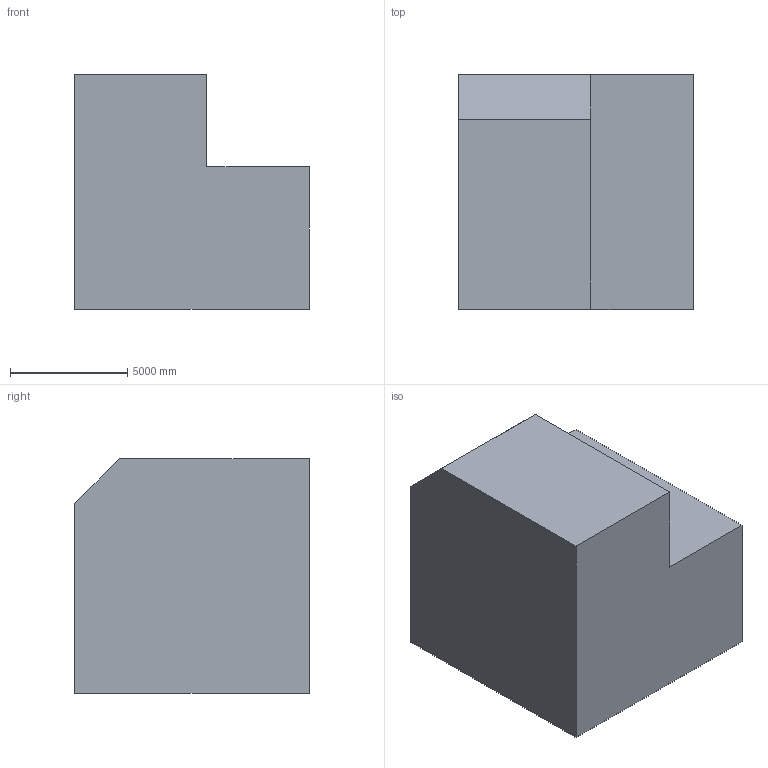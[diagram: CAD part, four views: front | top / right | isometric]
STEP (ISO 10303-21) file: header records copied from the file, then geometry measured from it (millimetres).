
FILE_DESCRIPTION (( 'STEP AP203' ), '1' );
FILE_NAME ('16.STEP', '2022-08-30T14:02:02', ( 'user' ), ( '' ), 'SwSTEP 2.0', 'SolidWorks 2021', '' );
FILE_SCHEMA (( 'CONFIG_CONTROL_DESIGN' ));
Length unit declared in the file: centimetre
Products named in the file (1): 16
Bounding box: 10000 x 10000 x 10000 mm (x, y, z)
Volume: 818526623754.8 mm3; surface area: 555812557.7 mm2
Topology: 1 solids, 1 shells, 9 faces, 21 edges, 14 vertices
Faces by surface type: plane 9
Entity records: 332 total; most frequent: CARTESIAN_POINT 45, ORIENTED_EDGE 42, DIRECTION 41, VECTOR 21, EDGE_CURVE 21, LINE 21, VERTEX_POINT 14, AXIS2_PLACEMENT_3D 10
